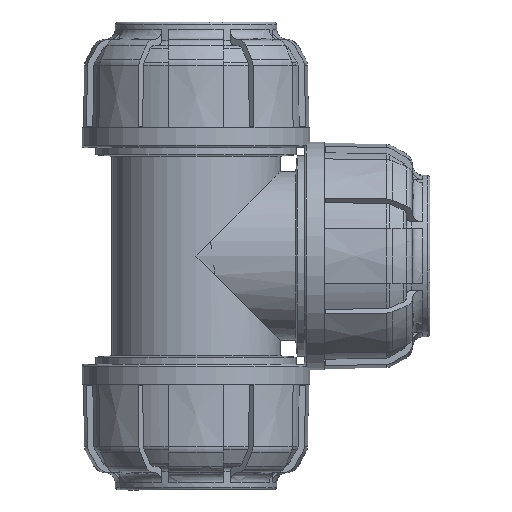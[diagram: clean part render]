
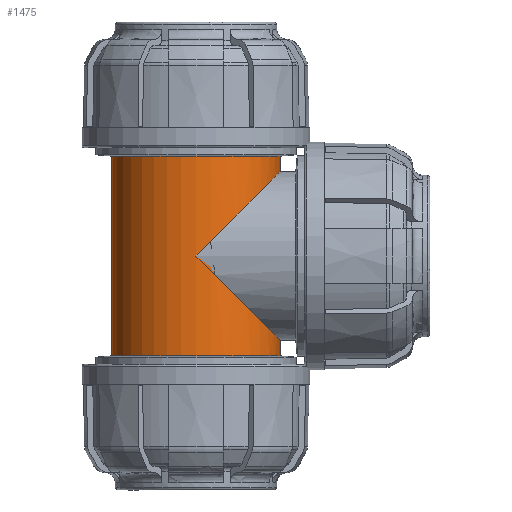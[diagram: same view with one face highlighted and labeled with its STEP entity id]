
A CAD part, left-side view. The second image highlights one B-rep face of the part: STEP entity #1475.
In plain terms, the highlighted cylindrical face has radius 41 mm (diameter 82 mm), a full revolution.
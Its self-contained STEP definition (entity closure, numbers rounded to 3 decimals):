
#1475 = ADVANCED_FACE( '', ( #3441, #3442, #3443 ), #3444, .T. );
#3441 = FACE_BOUND( '', #5932, .T. );
#3442 = FACE_OUTER_BOUND( '', #5933, .T. );
#3443 = FACE_OUTER_BOUND( '', #5934, .T. );
#3444 = CYLINDRICAL_SURFACE( '', #5935, 41. );
#5932 = EDGE_LOOP( '', ( #10164, #10165 ) );
#5933 = EDGE_LOOP( '', ( #10166 ) );
#5934 = EDGE_LOOP( '', ( #10167 ) );
#5935 = AXIS2_PLACEMENT_3D( '', #10168, #10169, #10170 );
#10164 = ORIENTED_EDGE( '', *, *, #16308, .T. );
#10165 = ORIENTED_EDGE( '', *, *, #16309, .T. );
#10166 = ORIENTED_EDGE( '', *, *, #16310, .T. );
#10167 = ORIENTED_EDGE( '', *, *, #16311, .F. );
#10168 = CARTESIAN_POINT( '', ( 0., 0., -126. ) );
#10169 = DIRECTION( '', ( 0., 0., -1. ) );
#10170 = DIRECTION( '', ( 1., 0., 0. ) );
#16308 = EDGE_CURVE( '', #20241, #20242, #20243, .F. );
#16309 = EDGE_CURVE( '', #20242, #20241, #20244, .F. );
#16310 = EDGE_CURVE( '', #20245, #20245, #20246, .T. );
#16311 = EDGE_CURVE( '', #20247, #20247, #20248, .T. );
#20241 = VERTEX_POINT( '', #28635 );
#20242 = VERTEX_POINT( '', #28636 );
#20243 = ELLIPSE( '', #28637, 57.983, 41. );
#20244 = ELLIPSE( '', #28638, 57.983, 41. );
#20245 = VERTEX_POINT( '', #28639 );
#20246 = CIRCLE( '', #28640, 41. );
#20247 = VERTEX_POINT( '', #28641 );
#20248 = CIRCLE( '', #28642, 41. );
#28635 = CARTESIAN_POINT( '', ( -41., 0., -89.5 ) );
#28636 = CARTESIAN_POINT( '', ( 41., 0., -89.5 ) );
#28637 = AXIS2_PLACEMENT_3D( '', #34193, #34194, #34195 );
#28638 = AXIS2_PLACEMENT_3D( '', #34196, #34197, #34198 );
#28639 = CARTESIAN_POINT( '', ( 41., 0., -138.068 ) );
#28640 = AXIS2_PLACEMENT_3D( '', #34199, #34200, #34201 );
#28641 = CARTESIAN_POINT( '', ( 41., 0., -40.932 ) );
#28642 = AXIS2_PLACEMENT_3D( '', #34202, #34203, #34204 );
#34193 = CARTESIAN_POINT( '', ( 0., 0., -89.5 ) );
#34194 = DIRECTION( '', ( 0., -0.707, -0.707 ) );
#34195 = DIRECTION( '', ( 0., -0.707, 0.707 ) );
#34196 = CARTESIAN_POINT( '', ( 0., 0., -89.5 ) );
#34197 = DIRECTION( '', ( 0., -0.707, 0.707 ) );
#34198 = DIRECTION( '', ( 0., -0.707, -0.707 ) );
#34199 = CARTESIAN_POINT( '', ( 0., 0., -138.068 ) );
#34200 = DIRECTION( '', ( 0., 0., 1. ) );
#34201 = DIRECTION( '', ( 1., 0., 0. ) );
#34202 = CARTESIAN_POINT( '', ( 0., 0., -40.932 ) );
#34203 = DIRECTION( '', ( 0., 0., 1. ) );
#34204 = DIRECTION( '', ( 1., 0., 0. ) );
